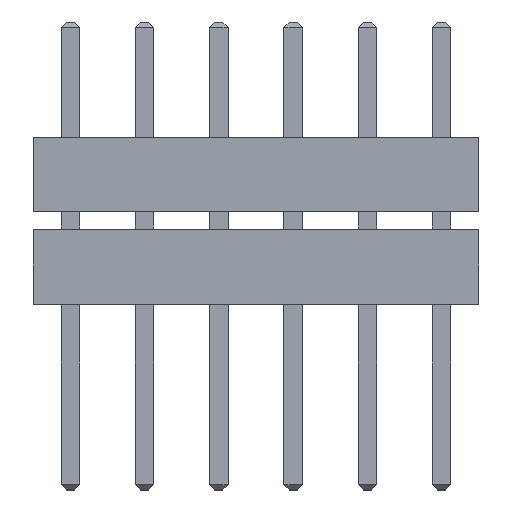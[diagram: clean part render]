
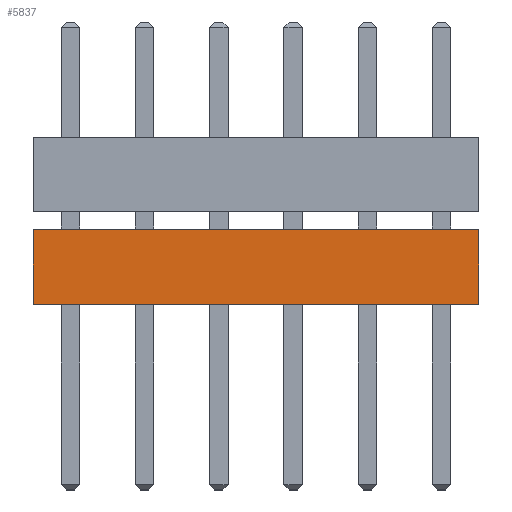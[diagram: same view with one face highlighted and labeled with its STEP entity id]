
A CAD part, top view. The second image highlights one B-rep face of the part: STEP entity #5837.
In plain terms, the highlighted planar face has unit normal (0, 0, 1).
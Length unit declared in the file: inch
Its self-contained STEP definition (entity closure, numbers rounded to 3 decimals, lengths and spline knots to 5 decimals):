
#49=ORIENTED_EDGE('',*,*,#1696,.T.);
#50=ORIENTED_EDGE('',*,*,#1704,.F.);
#51=ORIENTED_EDGE('',*,*,#1705,.F.);
#52=ORIENTED_EDGE('',*,*,#1699,.T.);
#1696=EDGE_CURVE('',#2522,#2524,#3044,.T.);
#1699=EDGE_CURVE('',#2527,#2522,#3047,.T.);
#1704=EDGE_CURVE('',#2531,#2524,#3052,.T.);
#1705=EDGE_CURVE('',#2527,#2531,#3053,.T.);
#2522=VERTEX_POINT('',#8051);
#2524=VERTEX_POINT('',#8055);
#2527=VERTEX_POINT('',#8063);
#2531=VERTEX_POINT('',#8073);
#3044=LINE('',#8056,#3872);
#3047=LINE('',#8062,#3875);
#3052=LINE('',#8072,#3880);
#3053=LINE('',#8074,#3881);
#3872=VECTOR('',#6550,39.37008);
#3875=VECTOR('',#6555,39.37008);
#3880=VECTOR('',#6562,39.37008);
#3881=VECTOR('',#6563,39.37008);
#4699=EDGE_LOOP('',(#49,#50,#51,#52));
#5101=FACE_BOUND('',#4699,.T.);
#5503=PLANE('',#6208);
#5837=ADVANCED_FACE('',(#5101),#5503,.F.);
#6208=AXIS2_PLACEMENT_3D('',#8071,#6560,#6561);
#6550=DIRECTION('',(1.,0.,0.));
#6555=DIRECTION('',(0.,-1.,0.));
#6560=DIRECTION('',(0.,0.,-1.));
#6561=DIRECTION('',(-1.,0.,0.));
#6562=DIRECTION('',(0.,-1.,0.));
#6563=DIRECTION('',(1.,0.,0.));
#8051=CARTESIAN_POINT('',(-0.3,0.,0.1));
#8055=CARTESIAN_POINT('',(0.3,0.,0.1));
#8056=CARTESIAN_POINT('',(-0.3,0.,0.1));
#8062=CARTESIAN_POINT('',(-0.3,0.1,0.1));
#8063=CARTESIAN_POINT('',(-0.3,0.1,0.1));
#8071=CARTESIAN_POINT('',(-0.3,0.1,0.1));
#8072=CARTESIAN_POINT('',(0.3,0.1,0.1));
#8073=CARTESIAN_POINT('',(0.3,0.1,0.1));
#8074=CARTESIAN_POINT('',(-0.3,0.1,0.1));
